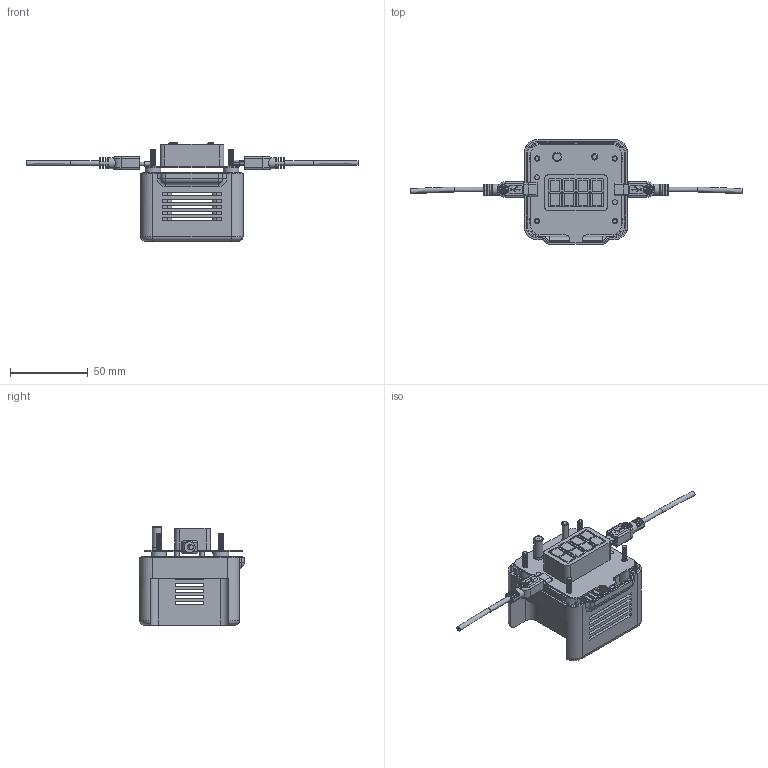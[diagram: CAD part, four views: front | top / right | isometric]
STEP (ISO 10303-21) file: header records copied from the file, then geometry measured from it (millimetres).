
FILE_DESCRIPTION(/* description */ (''),/* implementation_level */ '2;1');
FILE_NAME(/* name */ '10.stp',/* time_stamp */ '2017-05-18T00:52:16+08:00',/* author */ (''),/* organization */ (''),/* preprocessor_version */ 'ST-DEVELOPER v15',/* originating_system */ 'SIEMENS PLM Software NX 8.5',/* authorisation */ '');
FILE_SCHEMA (('AUTOMOTIVE_DESIGN { 1 0 10303 214 3 1 1 1 }'));
Products named in the file (1): Admi1DBCDAC23vpe
Bounding box: 213 x 67 x 63 mm (x, y, z)
Volume: 57402.6 mm3; surface area: 57286.6 mm2
Topology: 13 solids, 13 shells, 995 faces, 2616 edges, 1732 vertices
Faces by surface type: plane 713, cylinder 226, torus 27, bspline 20, cone 5, sphere 4
Full cylindrical faces by diameter (mm): 2 x2, 3 x6, 3.4 x8, 4 x4, 6 x2, 6.6 x4, 7 x6, 10.059 x4
Entity records: 66122 total; most frequent: CARTESIAN_POINT 39784, ORIENTED_EDGE 5048, DIRECTION 5024, EDGE_CURVE 2524, LINE 1782, VECTOR 1782, VERTEX_POINT 1690, AXIS2_PLACEMENT_3D 1621
